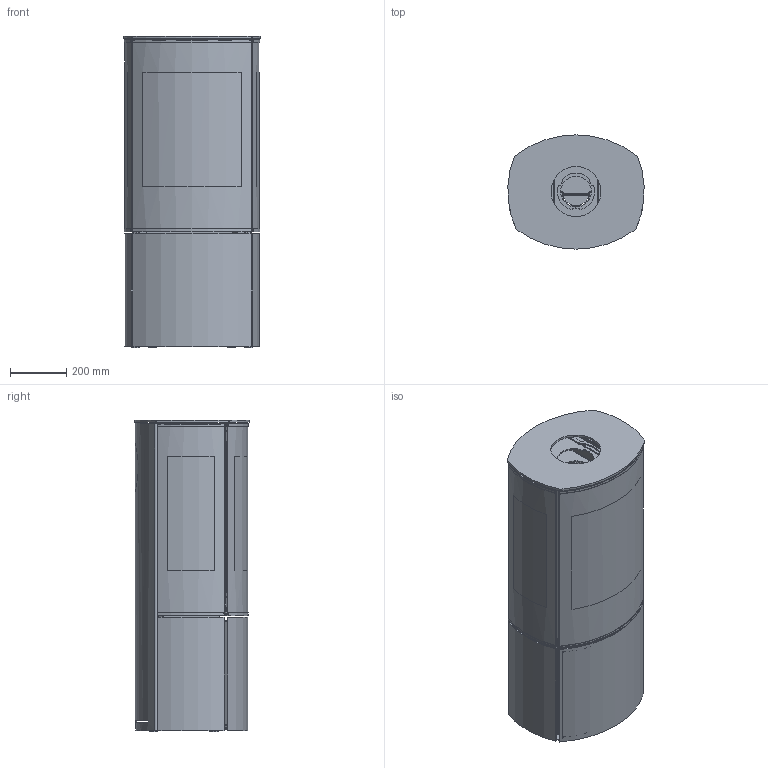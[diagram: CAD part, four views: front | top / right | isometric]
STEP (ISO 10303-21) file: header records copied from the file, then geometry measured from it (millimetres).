
FILE_DESCRIPTION(/* description */ (''),/* implementation_level */ '2;1');
FILE_NAME(/* name */ '14 Caro 110 G Gas_14-0413.stp',/* time_stamp */ '2023-11-16T13:40:19+01:00',/* author */ ('ksj'),/* organization */ (''),/* preprocessor_version */ 'ST-DEVELOPER v19.2',/* originating_system */ 'Autodesk Inventor 2023',/* authorisation */ '');
FILE_SCHEMA (('AUTOMOTIVE_DESIGN { 1 0 10303 214 3 1 1 }'));
Products named in the file (1): 14 Caro 110 G Gas_14-0413
Bounding box: 484.89 x 407 x 1111 mm (x, y, z)
Volume: 17382788.8 mm3; surface area: 8265626.9 mm2
Topology: 68 solids, 68 shells, 4555 faces, 12396 edges, 7961 vertices
Faces by surface type: plane 2763, cylinder 1629, bspline 113, cone 40, torus 8, sphere 2
Full cylindrical faces by diameter (mm): 10 x4, 110 x2, 178 x1
Entity records: 154755 total; most frequent: CARTESIAN_POINT 33266, ORIENTED_EDGE 24792, DIRECTION 23962, EDGE_CURVE 12396, LINE 8312, VECTOR 8312, VERTEX_POINT 7961, AXIS2_PLACEMENT_3D 7825
